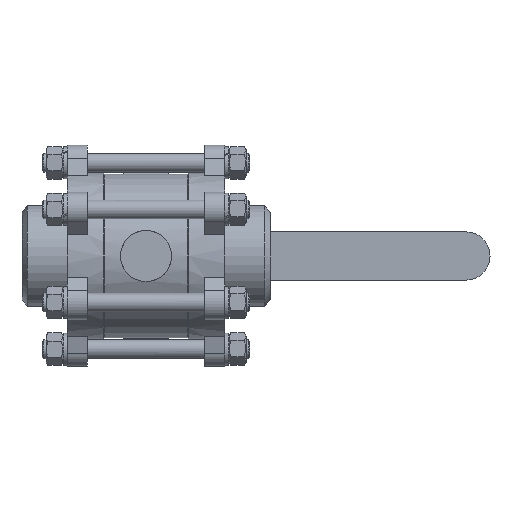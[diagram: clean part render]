
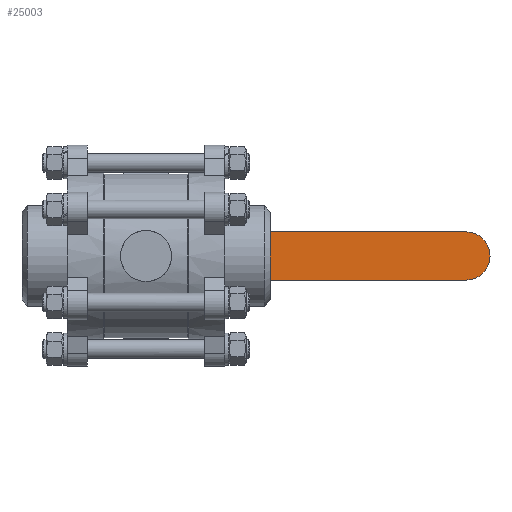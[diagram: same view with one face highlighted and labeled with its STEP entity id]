
A CAD part, front view. The second image highlights one B-rep face of the part: STEP entity #25003.
In plain terms, the highlighted planar face has unit normal (0, -1, 0).
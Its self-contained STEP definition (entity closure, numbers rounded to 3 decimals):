
#561=PLANE('',#26606);
#3278=FACE_OUTER_BOUND('',#4640,.T.);
#4640=EDGE_LOOP('',(#17920,#17921,#17922,#17923));
#6272=CIRCLE('',#26607,18.);
#7287=LINE('',#36501,#9343);
#7288=LINE('',#36503,#9344);
#7289=LINE('',#36504,#9345);
#9343=VECTOR('',#29416,10.);
#9344=VECTOR('',#29417,10.);
#9345=VECTOR('',#29418,10.);
#11594=VERTEX_POINT('',#36497);
#11595=VERTEX_POINT('',#36498);
#11596=VERTEX_POINT('',#36500);
#11597=VERTEX_POINT('',#36502);
#14068=EDGE_CURVE('',#11594,#11595,#6272,.T.);
#14069=EDGE_CURVE('',#11596,#11594,#7287,.T.);
#14070=EDGE_CURVE('',#11596,#11597,#7288,.T.);
#14071=EDGE_CURVE('',#11597,#11595,#7289,.T.);
#17920=ORIENTED_EDGE('',*,*,#14068,.F.);
#17921=ORIENTED_EDGE('',*,*,#14069,.F.);
#17922=ORIENTED_EDGE('',*,*,#14070,.T.);
#17923=ORIENTED_EDGE('',*,*,#14071,.T.);
#25003=ADVANCED_FACE('',(#3278),#561,.T.);
#26606=AXIS2_PLACEMENT_3D('',#36496,#29412,#29413);
#26607=AXIS2_PLACEMENT_3D('',#36499,#29414,#29415);
#29412=DIRECTION('center_axis',(0.,-1.,0.));
#29413=DIRECTION('ref_axis',(0.,0.,
-1.));
#29414=DIRECTION('center_axis',(0.,1.,0.));
#29415=DIRECTION('ref_axis',(0.707,0.,-0.707));
#29416=DIRECTION('',(1.,0.,0.));
#29417=DIRECTION('',(0.,0.,-1.));
#29418=DIRECTION('',(1.,0.,0.));
#36496=CARTESIAN_POINT('Origin',(44.967,255.977,9.265));
#36497=CARTESIAN_POINT('',(196.967,255.977,9.265));
#36498=CARTESIAN_POINT('',(196.967,255.977,-26.735));
#36499=CARTESIAN_POINT('Origin',(196.967,255.977,-8.735));
#36500=CARTESIAN_POINT('',(44.967,255.977,9.265));
#36501=CARTESIAN_POINT('',(44.967,255.977,9.265));
#36502=CARTESIAN_POINT('',(44.967,255.977,-26.735));
#36503=CARTESIAN_POINT('',(44.967,255.977,9.265));
#36504=CARTESIAN_POINT('',(44.967,255.977,-26.735));
